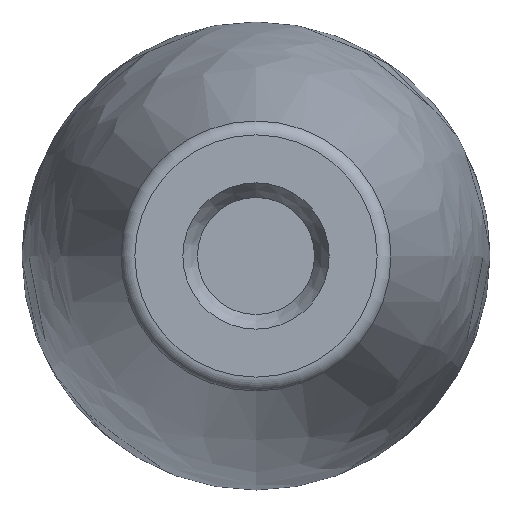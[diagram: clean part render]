
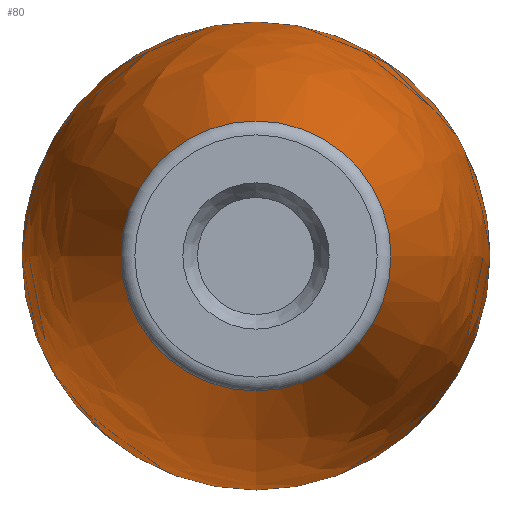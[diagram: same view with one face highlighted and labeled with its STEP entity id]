
A CAD part, front view. The second image highlights one B-rep face of the part: STEP entity #80.
In plain terms, the highlighted free-form (B-spline) face has degree [3, 3] with [4, 7] control points.
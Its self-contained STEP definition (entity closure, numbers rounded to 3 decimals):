
#80 = ADVANCED_FACE( '', ( #103, #104 ), #105, .T. );
#103 = FACE_OUTER_BOUND( '', #139, .T. );
#104 = FACE_OUTER_BOUND( '', #140, .T. );
#105 = ( BOUNDED_SURFACE(  )B_SPLINE_SURFACE( 3, 3, ( ( #143, #144, #145, #146, #147, #148, #149 ), ( #150, #151, #152, #153, #154, #155, #156 ), ( #157, #158, #159, #160, #161, #162, #163 ), ( #164, #165, #166, #167, #168, #169, #170 ) ), .UNSPECIFIED., .F., .T., .F. )B_SPLINE_SURFACE_WITH_KNOTS( ( 4, 4 ), ( 4, 3, 4 ), ( 0., 6.283 ), ( 0.007, 0.162, 0.317 ), .UNSPECIFIED. )GEOMETRIC_REPRESENTATION_ITEM(  )RATIONAL_B_SPLINE_SURFACE( ( ( 1., 0.333, 0.333, 1., 0.333, 0.333, 1. ), ( 0.992, 0.331, 0.331, 0.992, 0.331, 0.331, 0.992 ), ( 0.992, 0.331, 0.331, 0.992, 0.331, 0.331, 0.992 ), ( 1., 0.333, 0.333, 1., 0.333, 0.333, 1. ) ) )REPRESENTATION_ITEM( '' )SURFACE(  ) );
#139 = EDGE_LOOP( '', ( #219 ) );
#140 = EDGE_LOOP( '', ( #220 ) );
#143 = CARTESIAN_POINT( '', ( 0., 0.688, -9.228 ) );
#144 = CARTESIAN_POINT( '', ( 18.456, 0.688, -9.228 ) );
#145 = CARTESIAN_POINT( '', ( 18.456, 0.688, 9.228 ) );
#146 = CARTESIAN_POINT( '', ( 0., 0.688, 9.228 ) );
#147 = CARTESIAN_POINT( '', ( -18.456, 0.688, 9.228 ) );
#148 = CARTESIAN_POINT( '', ( -18.456, 0.688, -9.228 ) );
#149 = CARTESIAN_POINT( '', ( 0., 0.688, -9.228 ) );
#150 = CARTESIAN_POINT( '', ( 0., 14.05, -13.617 ) );
#151 = CARTESIAN_POINT( '', ( 27.235, 14.05, -13.617 ) );
#152 = CARTESIAN_POINT( '', ( 27.235, 14.05, 13.617 ) );
#153 = CARTESIAN_POINT( '', ( 0., 14.05, 13.617 ) );
#154 = CARTESIAN_POINT( '', ( -27.235, 14.05, 13.617 ) );
#155 = CARTESIAN_POINT( '', ( -27.235, 14.05, -13.617 ) );
#156 = CARTESIAN_POINT( '', ( 0., 14.05, -13.617 ) );
#157 = CARTESIAN_POINT( '', ( 0., 27.929, -15.892 ) );
#158 = CARTESIAN_POINT( '', ( 31.783, 27.929, -15.892 ) );
#159 = CARTESIAN_POINT( '', ( 31.783, 27.929, 15.892 ) );
#160 = CARTESIAN_POINT( '', ( 0., 27.929, 15.892 ) );
#161 = CARTESIAN_POINT( '', ( -31.783, 27.929, 15.892 ) );
#162 = CARTESIAN_POINT( '', ( -31.783, 27.929, -15.892 ) );
#163 = CARTESIAN_POINT( '', ( 0., 27.929, -15.892 ) );
#164 = CARTESIAN_POINT( '', ( 0., 41.993, -15.996 ) );
#165 = CARTESIAN_POINT( '', ( 31.993, 41.993, -15.996 ) );
#166 = CARTESIAN_POINT( '', ( 31.993, 41.993, 15.996 ) );
#167 = CARTESIAN_POINT( '', ( 0., 41.993, 15.996 ) );
#168 = CARTESIAN_POINT( '', ( -31.993, 41.993, 15.996 ) );
#169 = CARTESIAN_POINT( '', ( -31.993, 41.993, -15.996 ) );
#170 = CARTESIAN_POINT( '', ( 0., 41.993, -15.996 ) );
#219 = ORIENTED_EDGE( '', *, *, #257, .T. );
#220 = ORIENTED_EDGE( '', *, *, #256, .F. );
#256 = EDGE_CURVE( '', #274, #274, #275, .T. );
#257 = EDGE_CURVE( '', #276, #276, #277, .T. );
#274 = VERTEX_POINT( '', #296 );
#275 = CIRCLE( '', #297, 9.228 );
#276 = VERTEX_POINT( '', #298 );
#277 = CIRCLE( '', #299, 15.996 );
#296 = CARTESIAN_POINT( '', ( 0., 0.688, -9.228 ) );
#297 = AXIS2_PLACEMENT_3D( '', #323, #324, #325 );
#298 = CARTESIAN_POINT( '', ( 0., 41.993, -15.996 ) );
#299 = AXIS2_PLACEMENT_3D( '', #326, #327, #328 );
#323 = CARTESIAN_POINT( '', ( 0., 0.688, 0. ) );
#324 = DIRECTION( '', ( 0., -1., 0. ) );
#325 = DIRECTION( '', ( 0., 0., -1. ) );
#326 = CARTESIAN_POINT( '', ( 0., 41.993, 0. ) );
#327 = DIRECTION( '', ( 0., -1., 0. ) );
#328 = DIRECTION( '', ( 0., 0., -1. ) );
